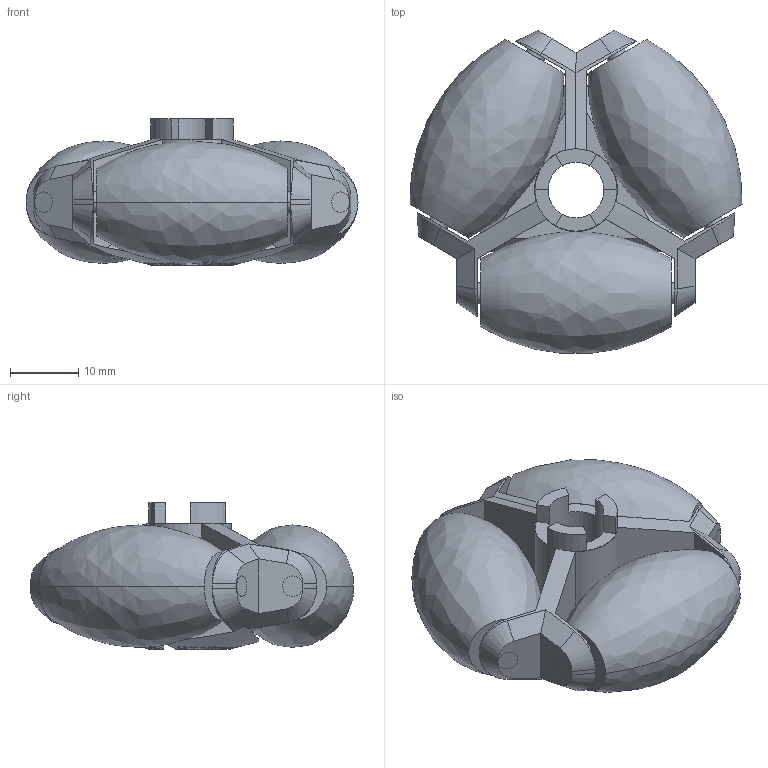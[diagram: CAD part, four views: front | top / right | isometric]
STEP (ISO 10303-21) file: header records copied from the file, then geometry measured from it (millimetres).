
FILE_DESCRIPTION((''),'2;1');
FILE_NAME('OW48_ASM','2014-08-19T',('pablo'),(''),'PRO/ENGINEER BY PARAMETRIC TECHNOLOGY CORPORATION, 2009440','PRO/ENGINEER BY PARAMETRIC TECHNOLOGY CORPORATION, 2009440','');
FILE_SCHEMA(('CONFIG_CONTROL_DESIGN'));
Length unit declared in the file: millimetre
Products named in the file (3): OW48BODY; OW48ROLLER; OW48_ASM
Assembly tree (4 placements, depth 2):
  OW48_ASM
    OW48BODY
    OW48ROLLER  x3
Bounding box: 48.82 x 47.48 x 21.5 mm (x, y, z)
Volume: 4553.4 mm3; surface area: 9353.1 mm2
Topology: 1 solids, 4 shells, 919 faces, 2617 edges, 1715 vertices
Faces by surface type: plane 817, bspline 42, cylinder 41, cone 19
Entity records: 30996 total; most frequent: CARTESIAN_POINT 9162, ORIENTED_EDGE 5146, DIRECTION 3557, EDGE_CURVE 2573, VERTEX_POINT 1687, VECTOR 1607, LINE 1607, AXIS2_PLACEMENT_3D 975
